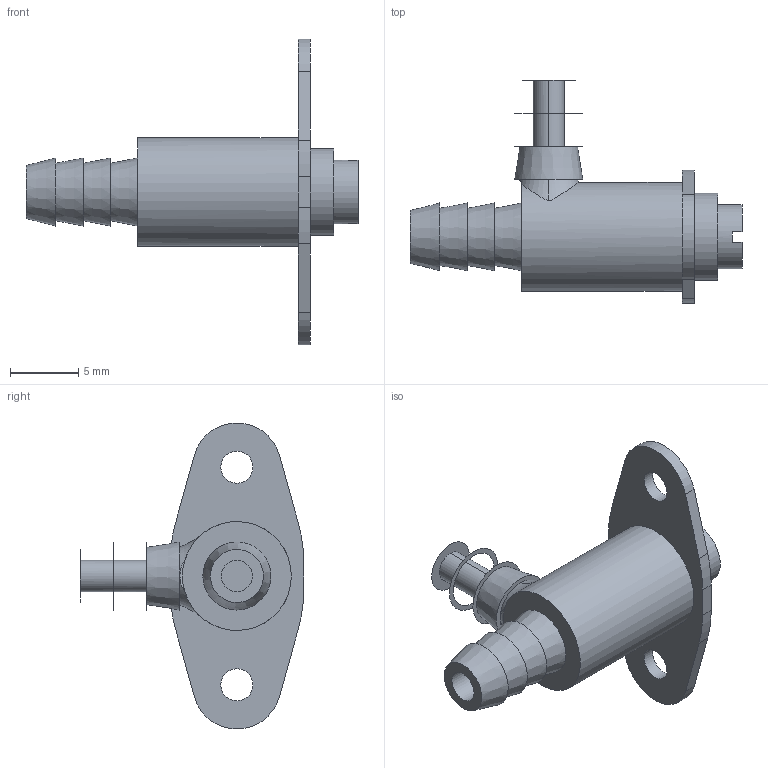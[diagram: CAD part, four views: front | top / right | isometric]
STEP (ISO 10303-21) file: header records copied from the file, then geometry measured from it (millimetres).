
FILE_DESCRIPTION(/* description */ ('SolidWorks IGES file using NURBS representation for surfaces '),/* implementation_level */ '2;1');
FILE_NAME(/* name */ 'K:\Normteile INVENTOR\Air-Logic\Needle Valves\F-2822-21-B85.IGS.ipt.stp',/* time_stamp */ '2020-05-27T10:40:44+02:00',/* author */ ('amarsh'),/* organization */ (''),/* preprocessor_version */ 'ST-DEVELOPER v18',/* originating_system */ 'Autodesk Inventor 2020',/* authorisation */ '');
FILE_SCHEMA (('AUTOMOTIVE_DESIGN { 1 0 10303 214 3 1 1 }'));
Length unit declared in the file: millimetre
Products named in the file (1): F-2822-21-B85.IGS
Bounding box: 24.4 x 16.4 x 22.48 mm (x, y, z)
Volume: 1019.2 mm3; surface area: 1156.8 mm2
Topology: 2 solids, 2 shells, 50 faces, 127 edges, 92 vertices
Faces by surface type: plane 25, cylinder 15, cone 7, torus 3
Full cylindrical faces by diameter (mm): 2.3 x1, 2.36 x2, 4.7 x1, 6.4 x1, 8 x1
Entity records: 1729 total; most frequent: CARTESIAN_POINT 373, DIRECTION 297, ORIENTED_EDGE 254, EDGE_CURVE 127, AXIS2_PLACEMENT_3D 125, VERTEX_POINT 92, CIRCLE 74, EDGE_LOOP 65
